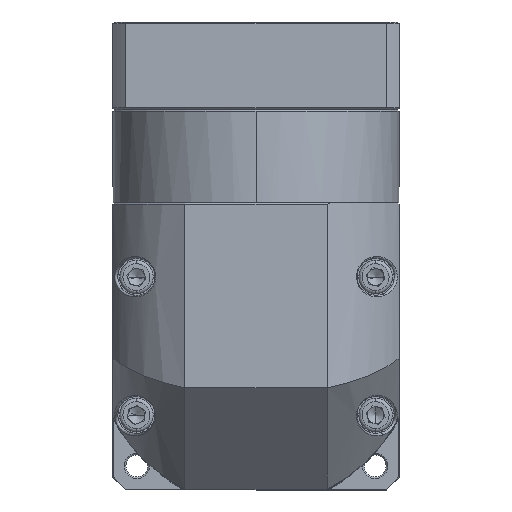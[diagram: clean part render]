
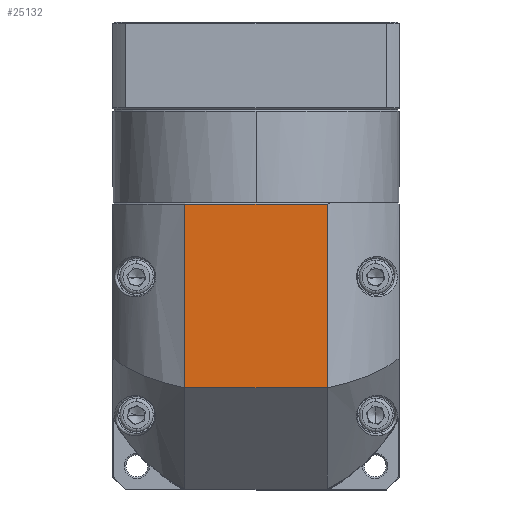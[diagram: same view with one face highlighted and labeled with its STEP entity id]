
A CAD part, top view. The second image highlights one B-rep face of the part: STEP entity #25132.
In plain terms, the highlighted planar face has unit normal (0, 0, 1).
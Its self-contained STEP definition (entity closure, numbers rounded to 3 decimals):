
#12234 = CARTESIAN_POINT ( 'NONE',  ( -56.244, 51.979, 63.278 ) ) ;
#12942 = CARTESIAN_POINT ( 'NONE',  ( -77.457, 51.979, 63.278 ) ) ;
#13928 = EDGE_CURVE ( 'NONE', #65758, #89171, #22670, .T. ) ;
#19138 = AXIS2_PLACEMENT_3D ( 'NONE', #120218, #67080, #108024 ) ;
#22066 = PLANE ( 'NONE',  #19138 ) ;
#22670 = LINE ( 'NONE', #126224, #56309 ) ;
#23886 = DIRECTION ( 'NONE',  ( -1., 0., 0. ) ) ;
#25132 = ADVANCED_FACE ( 'NONE', ( #39040 ), #22066, .T. ) ;
#30824 = DIRECTION ( 'NONE',  ( 0., -1., 0. ) ) ;
#30944 = ORIENTED_EDGE ( 'NONE', *, *, #103418, .T. ) ;
#36025 = VECTOR ( 'NONE', #81371, 1000. ) ;
#37652 = LINE ( 'NONE', #133643, #36025 ) ;
#39040 = FACE_OUTER_BOUND ( 'NONE', #62629, .T. ) ;
#56309 = VECTOR ( 'NONE', #30824, 1000. ) ;
#56853 = EDGE_CURVE ( 'NONE', #101491, #74895, #37652, .T. ) ;
#62629 = EDGE_LOOP ( 'NONE', ( #99753, #138246, #107359, #30944 ) ) ;
#65758 = VERTEX_POINT ( 'NONE', #91854 ) ;
#67080 = DIRECTION ( 'NONE',  ( 0., 0., 1. ) ) ;
#74895 = VERTEX_POINT ( 'NONE', #12942 ) ;
#75583 = CARTESIAN_POINT ( 'NONE',  ( -56.244, -2.521, 63.278 ) ) ;
#80080 = VECTOR ( 'NONE', #23886, 1000. ) ;
#81371 = DIRECTION ( 'NONE',  ( 0., 1., 0. ) ) ;
#86890 = DIRECTION ( 'NONE',  ( -1., 0., 0. ) ) ;
#89171 = VERTEX_POINT ( 'NONE', #114289 ) ;
#91854 = CARTESIAN_POINT ( 'NONE',  ( -35.03, 51.979, 63.278 ) ) ;
#95172 = LINE ( 'NONE', #75583, #80080 ) ;
#99753 = ORIENTED_EDGE ( 'NONE', *, *, #56853, .F. ) ;
#101491 = VERTEX_POINT ( 'NONE', #138298 ) ;
#102223 = VECTOR ( 'NONE', #86890, 1000. ) ;
#103418 = EDGE_CURVE ( 'NONE', #65758, #74895, #139207, .T. ) ;
#107359 = ORIENTED_EDGE ( 'NONE', *, *, #13928, .F. ) ;
#108024 = DIRECTION ( 'NONE',  ( 0., 1., 0. ) ) ;
#112707 = EDGE_CURVE ( 'NONE', #89171, #101491, #95172, .T. ) ;
#114289 = CARTESIAN_POINT ( 'NONE',  ( -35.03, -2.521, 63.278 ) ) ;
#120218 = CARTESIAN_POINT ( 'NONE',  ( -56.244, 9.979, 63.278 ) ) ;
#126224 = CARTESIAN_POINT ( 'NONE',  ( -35.03, -48.021, 63.278 ) ) ;
#133643 = CARTESIAN_POINT ( 'NONE',  ( -77.457, -48.021, 63.278 ) ) ;
#138246 = ORIENTED_EDGE ( 'NONE', *, *, #112707, .F. ) ;
#138298 = CARTESIAN_POINT ( 'NONE',  ( -77.457, -2.521, 63.278 ) ) ;
#139207 = LINE ( 'NONE', #12234, #102223 ) ;
